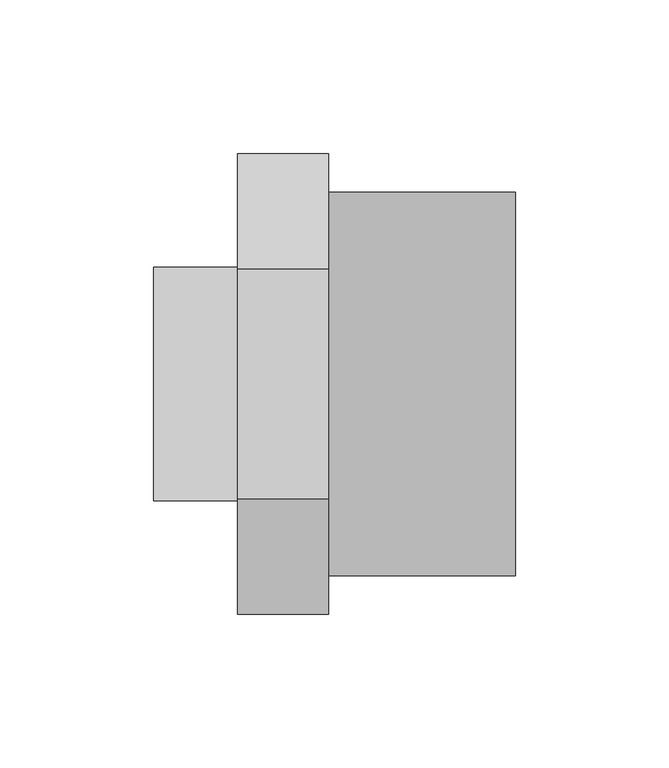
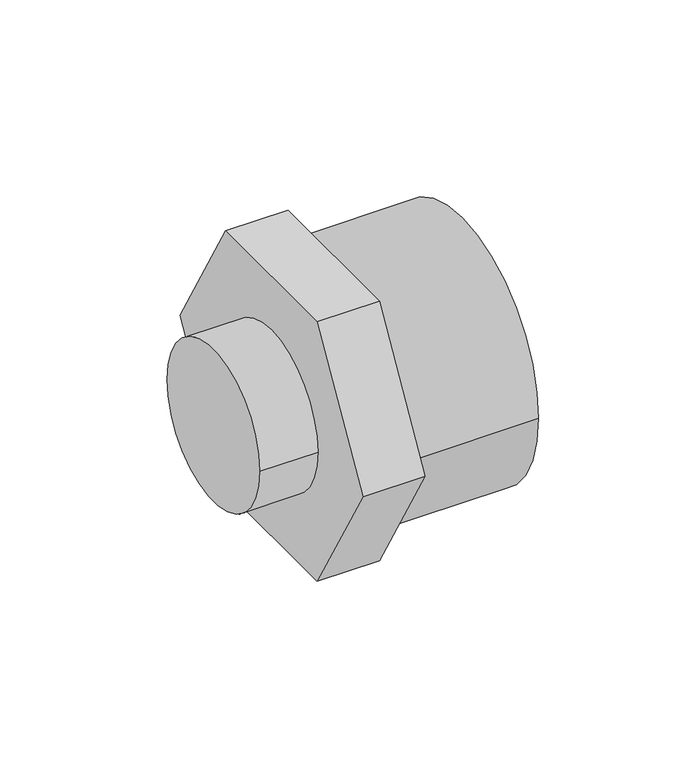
"""IFC4 building model written with IfcOpenShell, lengths in millimetres: pipe fitting geometry, 01101081 : Mamelons de réduction multiple FxMxM."""

from ifc_helpers import new_model, si_unit, point, frame, origin, origin_2d, place, context, project, spatial, polyline, circle_curve, trimmed, segment, composite_curve, outline, extrude, source, transform, mapped, element, save


def pipe_fitting_c8f2ab5b(model_context):
    return source(origin(), model_context, "Body", "SweptSolid", [
        extrude(outline(composite_curve([segment(trimmed(circle_curve(origin_2d(), 38.1), [point((38.1, 0.0))], [point((-38.1, 0.0))], False, "CARTESIAN"), True, "CONTINUOUS"), segment(trimmed(circle_curve(origin_2d(), 38.1), [point((-38.1, 0.0))], [point((38.1, 0.0))], False, "CARTESIAN"), True, "CONTINUOUS")], self_intersect=False)), frame((0.0, 0.0, 0.0), z_axis=(1.0, 0.0, 0.0), x_axis=(0.0, 1.0, 0.0)), (0.0, 0.0, 1.0), 27.5),
        extrude(outline(polyline([(-37.5277675, 65.0), (37.5277675, 65.0), (75.055535, 0.0), (37.5277675, -65.0), (-37.5277675, -65.0), (-75.055535, 0.0), (-37.5277675, 65.0)])), frame((27.5, 0.0, 0.0), z_axis=(1.0, 0.0, 0.0), x_axis=(0.0, 1.0, 0.0)), (0.0, 0.0, 1.0), 29.5),
        extrude(outline(composite_curve([segment(trimmed(circle_curve(origin_2d(), 62.5), [point((-62.5, 0.0))], [point((62.5, 0.0))], False, "CARTESIAN"), True, "CONTINUOUS"), segment(trimmed(circle_curve(origin_2d(), 62.5), [point((62.5, 0.0))], [point((-62.5, 0.0))], False, "CARTESIAN"), True, "CONTINUOUS")], self_intersect=False)), frame((57.0, 0.0, 0.0), z_axis=(1.0, 0.0, 0.0), x_axis=(0.0, 1.0, 0.0)), (0.0, 0.0, 1.0), 61.0),
    ])


if __name__ == "__main__":
    model = new_model("IFC4")
    model_context = context("Model", 3, world=origin())
    ifc_project = project(units=[si_unit("LENGTHUNIT", "METRE", prefix="MILLI")], contexts=[model_context])
    site = spatial("IfcSite", under=ifc_project)
    building = spatial("IfcBuilding", under=site)
    placement = place(None, origin())
    pipe_fitting_shape = pipe_fitting_c8f2ab5b(model_context)
    element("IfcPipeFitting", 1, ObjectType="01101081 : Mamelons de réduction multiple FxMxM", at=placement, inside=building, context=model_context, shape_type="MappedRepresentation", body=[
        mapped(pipe_fitting_shape, transform((0.0, 0.0, 0.0), x_axis=(1.0, 0.0, 0.0), y_axis=(0.0, 1.0, 0.0), z_axis=(0.0, 0.0, 1.0))),
    ])
    save(model, "model.ifc")
